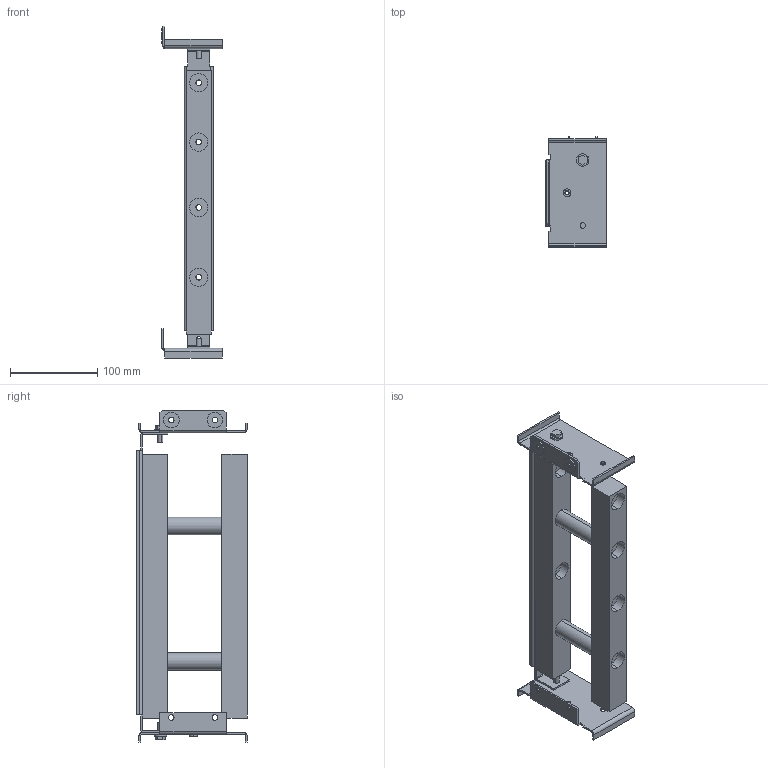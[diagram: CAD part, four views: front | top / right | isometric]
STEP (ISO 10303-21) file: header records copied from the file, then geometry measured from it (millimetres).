
FILE_DESCRIPTION((''),'2;1');
FILE_NAME('SB108879_3D-SOFTWARE_COLOUR','2013-08-12T',('SESA214371'),('Schneider-Electric'),'PRO/ENGINEER BY PARAMETRIC TECHNOLOGY CORPORATION, 2011410','PRO/ENGINEER BY PARAMETRIC TECHNOLOGY CORPORATION, 2011410','');
FILE_SCHEMA(('CONFIG_CONTROL_DESIGN'));
Length unit declared in the file: millimetre
Products named in the file (1): SB108879_3D-SOFTWARE_COLOUR
Bounding box: 69.5 x 126.5 x 380.5 mm (x, y, z)
Volume: 544528.1 mm3; surface area: 167058.4 mm2
Topology: 1 solids, 1 shells, 291 faces, 688 edges, 448 vertices
Faces by surface type: plane 149, cylinder 142
Entity records: 8532 total; most frequent: DIRECTION 1554, CARTESIAN_POINT 1427, ORIENTED_EDGE 1376, EDGE_CURVE 688, AXIS2_PLACEMENT_3D 575, VERTEX_POINT 448, VECTOR 404, LINE 404
